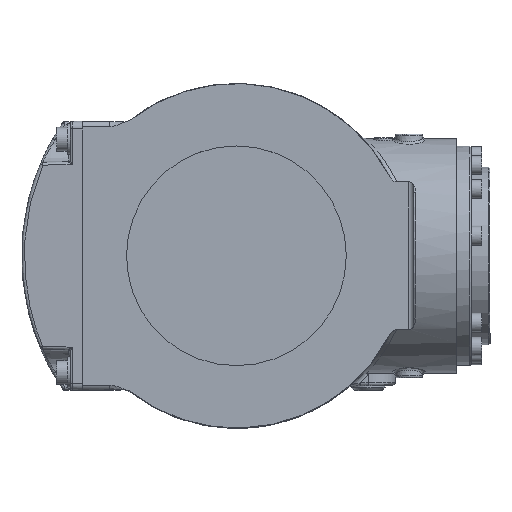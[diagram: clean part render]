
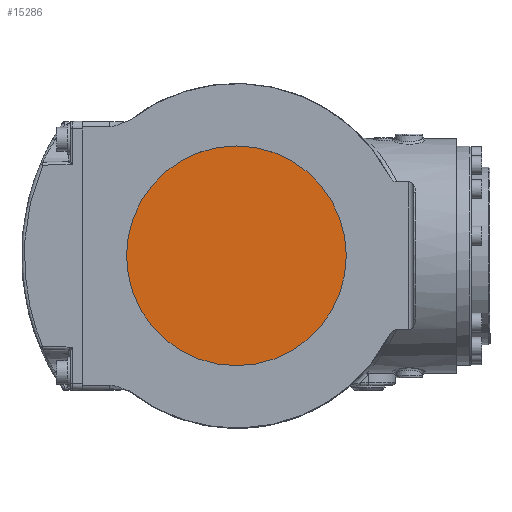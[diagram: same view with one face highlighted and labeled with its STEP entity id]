
A CAD part, top view. The second image highlights one B-rep face of the part: STEP entity #15286.
In plain terms, the highlighted planar face has unit normal (0, 0, 1) as drawn and (0, 1, 0) by its records, which use the part's own axes.
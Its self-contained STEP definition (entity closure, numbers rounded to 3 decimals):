
#2018 = AXIS2_PLACEMENT_3D ( 'NONE', #14897, #10361, #11531 ) ;
#2760 = ORIENTED_EDGE ( 'NONE', *, *, #5458, .F. ) ;
#4818 = FACE_OUTER_BOUND ( 'NONE', #13876, .T. ) ;
#5084 = DIRECTION ( 'NONE',  ( 0., -1., 0. ) ) ;
#5458 = EDGE_CURVE ( 'NONE', #15536, #15536, #16295, .T. ) ;
#6495 = CARTESIAN_POINT ( 'NONE',  ( 365., 25., 765. ) ) ;
#6552 = AXIS2_PLACEMENT_3D ( 'NONE', #6495, #5084, #12866 ) ;
#9865 = PLANE ( 'NONE',  #2018 ) ;
#10361 = DIRECTION ( 'NONE',  ( 0., -1., 0. ) ) ;
#11531 = DIRECTION ( 'NONE',  ( -1., 0., 0. ) ) ;
#12866 = DIRECTION ( 'NONE',  ( -1., 0., 0. ) ) ;
#12994 = CARTESIAN_POINT ( 'NONE',  ( 332.5, 25., 765. ) ) ;
#13876 = EDGE_LOOP ( 'NONE', ( #2760 ) ) ;
#14897 = CARTESIAN_POINT ( 'NONE',  ( 365., 25., 765. ) ) ;
#15286 = ADVANCED_FACE ( 'NONE', ( #4818 ), #9865, .F. ) ;
#15536 = VERTEX_POINT ( 'NONE', #12994 ) ;
#16295 = CIRCLE ( 'NONE', #6552, 32.5 ) ;
